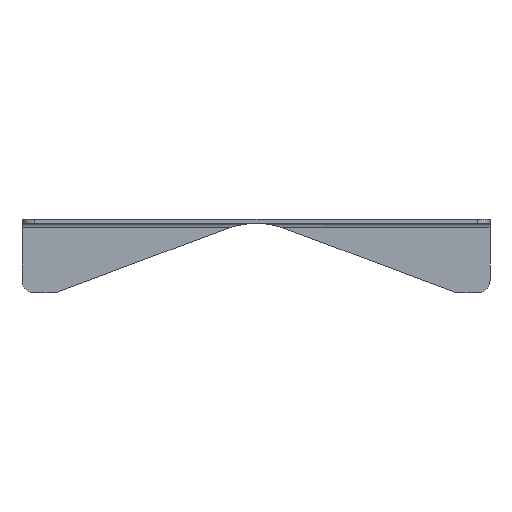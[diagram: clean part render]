
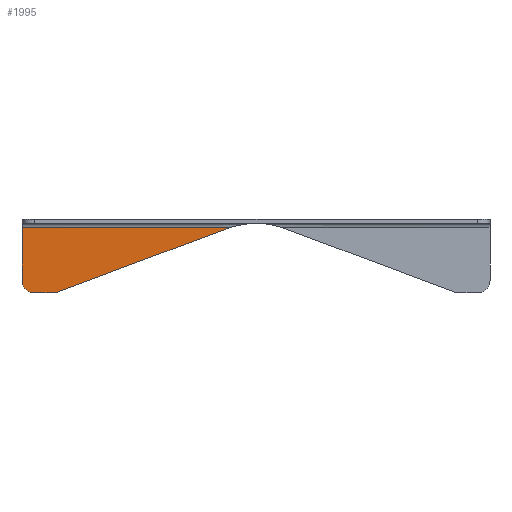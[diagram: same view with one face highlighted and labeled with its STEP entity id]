
A CAD part, front view. The second image highlights one B-rep face of the part: STEP entity #1995.
In plain terms, the highlighted planar face has unit normal (0, -1, 0).
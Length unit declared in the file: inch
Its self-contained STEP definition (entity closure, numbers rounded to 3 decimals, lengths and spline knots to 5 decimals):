
#654=DIRECTION('',(0.937,0.,0.35));
#655=VECTOR('',#654,2.79229);
#656=CARTESIAN_POINT('',(-3.,-0.06,-1.1));
#657=LINE('',#656,#655);
#661=CARTESIAN_POINT('',(-3.3125,-0.06,-0.9125));
#662=DIRECTION('',(0.,-1.,0.));
#663=DIRECTION('',(-1.,0.,0.));
#664=AXIS2_PLACEMENT_3D('',#661,#662,#663);
#669=DIRECTION('',(0.,0.,-1.));
#670=VECTOR('',#669,0.7895);
#671=CARTESIAN_POINT('',(-3.5,-0.06,-0.123));
#672=LINE('',#671,#670);
#683=DIRECTION('',(-1.,0.,0.));
#684=VECTOR('',#683,0.3125);
#685=CARTESIAN_POINT('',(-3.,-0.06,-1.1));
#686=LINE('',#685,#684);
#725=CARTESIAN_POINT('',(-0.38421,-0.06,-0.123));
#739=DIRECTION('',(1.,0.,0.));
#740=VECTOR('',#739,3.11579);
#741=CARTESIAN_POINT('',(-3.5,-0.06,-0.123));
#742=LINE('',#741,#740);
#1530=VERTEX_POINT('',#725);
#1533=CARTESIAN_POINT('',(-3.5,-0.06,-0.123));
#1534=VERTEX_POINT('',#1533);
#1535=CARTESIAN_POINT('',(-3.,-0.06,-1.1));
#1537=VERTEX_POINT('',#1535);
#1539=CARTESIAN_POINT('',(-3.3125,-0.06,-1.1));
#1540=VERTEX_POINT('',#1539);
#1545=CARTESIAN_POINT('',(-3.5,-0.06,-0.9125));
#1546=VERTEX_POINT('',#1545);
#1979=CARTESIAN_POINT('',(-3.5,-0.06,-1.1));
#1980=DIRECTION('',(0.,1.,0.));
#1981=DIRECTION('',(0.,0.,1.));
#1982=AXIS2_PLACEMENT_3D('',#1979,#1980,#1981);
#1983=PLANE('',#1982);
#1985=ORIENTED_EDGE('',*,*,#1984,.F.);
#1987=ORIENTED_EDGE('',*,*,#1986,.T.);
#1989=ORIENTED_EDGE('',*,*,#1988,.F.);
#1990=ORIENTED_EDGE('',*,*,#1972,.F.);
#1992=ORIENTED_EDGE('',*,*,#1991,.T.);
#1993=EDGE_LOOP('',(#1985,#1987,#1989,#1990,#1992));
#1994=FACE_OUTER_BOUND('',#1993,.F.);
#665=CIRCLE('',#664,0.1875);
#1972=EDGE_CURVE('',#1534,#1546,#672,.T.);
#1984=EDGE_CURVE('',#1537,#1530,#657,.T.);
#1986=EDGE_CURVE('',#1537,#1540,#686,.T.);
#1988=EDGE_CURVE('',#1546,#1540,#665,.T.);
#1991=EDGE_CURVE('',#1534,#1530,#742,.T.);
#1995=ADVANCED_FACE('',(#1994),#1983,.F.);
